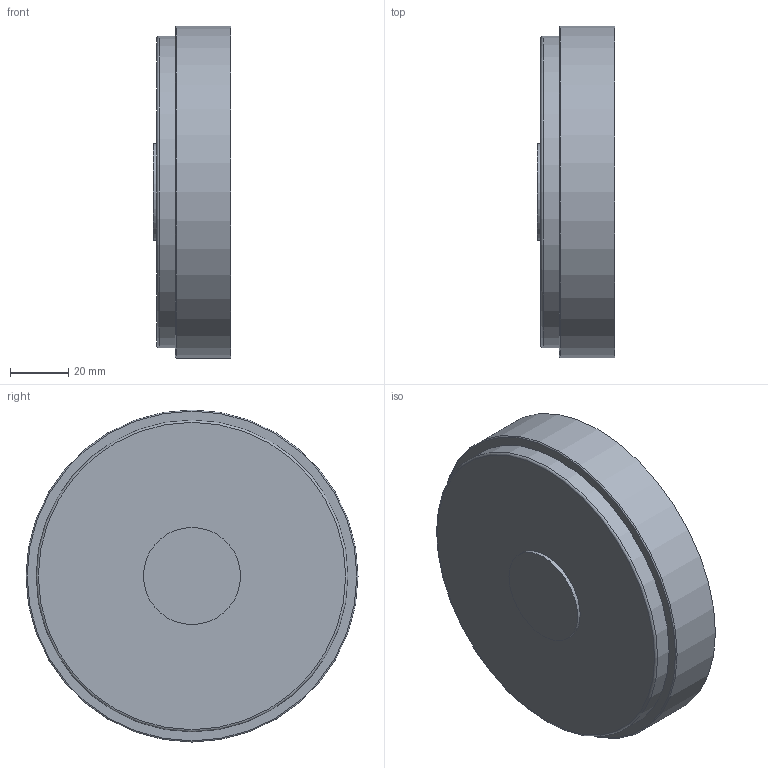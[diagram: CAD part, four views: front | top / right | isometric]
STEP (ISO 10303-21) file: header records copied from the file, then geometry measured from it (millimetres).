
FILE_DESCRIPTION(/* description */ ('VIC STRENGTHIN CAP No E496 w/Tap 1/2 inch BSPT (Concentric)','CAx-IF Rec.Pracs.---Representation and Presentation of Product Manufacturing Information (PMI)---4.0---2014-10-13'),/* implementation_level */ '2;1');
FILE_NAME(/* name */ 'C:\Users\Vjadhav\AppData\Roaming\Autodesk\ApplicationPlugins\Back Up\Victaulic_SS-StrengThin 100_Cap With Tap_No E496 (ST1)\Victaulic_SS-StrengThin 100_Cap With Tap_No E496 (ST1)_04.0x01.0 (100x25).stp',/* time_stamp */ '2020-07-07T18:46:57+05:00',/* author */ ('jheald'),/* organization */ ('Victaulic'),/* preprocessor_version */ 'ST-DEVELOPER v17.2',/* originating_system */ 'Autodesk Inventor 2019',/* authorisation */ '');
FILE_SCHEMA (('AP242_MANAGED_MODEL_BASED_3D_ENGINEERING_MIM_LF { 1 0 10303 442 1 1 4 }'));
Length unit declared in the file: inch
Products named in the file (1): E496-04.0x01.0
Bounding box: 26.67 x 114.3 x 114.3 mm (x, y, z)
Volume: 174690.6 mm3; surface area: 32563.9 mm2
Topology: 1 solids, 1 shells, 11 faces, 26 edges, 20 vertices
Faces by surface type: plane 5, cylinder 4, torus 2
Full cylindrical faces by diameter (mm): 33.401 x1, 102.26 x1, 107.315 x1, 114.3 x1
Entity records: 489 total; most frequent: DIRECTION 98, CARTESIAN_POINT 75, ORIENTED_EDGE 52, AXIS2_PLACEMENT_3D 47, EDGE_CURVE 26, CIRCLE 22, VERTEX_POINT 20, EDGE_LOOP 14
